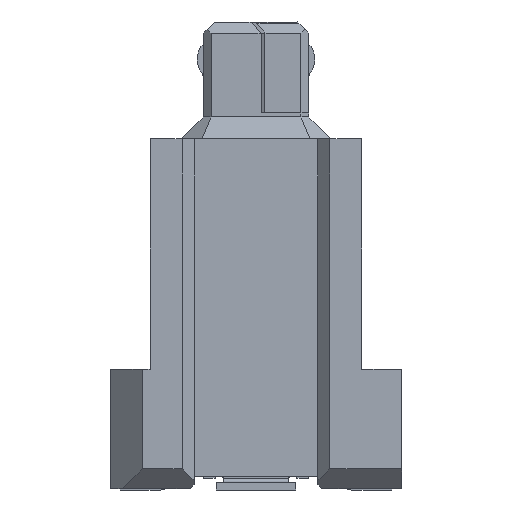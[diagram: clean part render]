
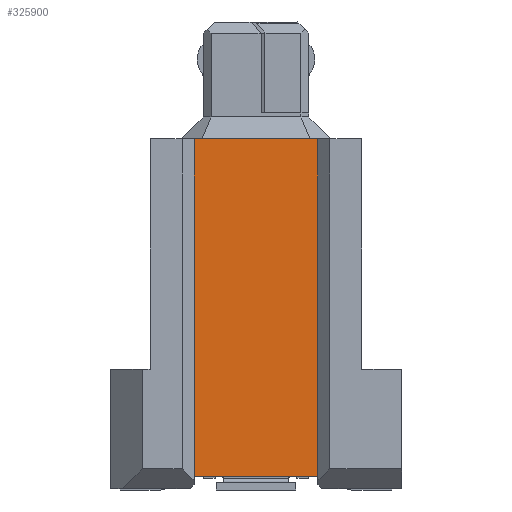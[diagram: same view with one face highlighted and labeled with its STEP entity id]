
A CAD part, left-side view. The second image highlights one B-rep face of the part: STEP entity #325900.
In plain terms, the highlighted planar face has unit normal (-1, 0, 0).
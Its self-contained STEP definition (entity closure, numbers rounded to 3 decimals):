
#173320=CARTESIAN_POINT('',(4.968,3.41,4.2));
#173330=VERTEX_POINT('',#173320);
#173360=CARTESIAN_POINT('',(4.968,3.41,0.));
#173370=DIRECTION('',(0.,0.,-1.));
#173380=VECTOR('',#173370,1.);
#173390=LINE('',#173360,#173380);
#173400=CARTESIAN_POINT('',(4.968,3.41,1.1));
#173410=VERTEX_POINT('',#173400);
#173420=EDGE_CURVE('',#173330,#173410,#173390,.T.);
#325600=CARTESIAN_POINT('',(4.968,-2.36,5.3));
#325610=DIRECTION('',(-1.,0.,0.));
#325620=DIRECTION('',(0.,1.,0.));
#325630=AXIS2_PLACEMENT_3D('',#325600,#325610,#325620);
#325640=PLANE('',#325630);
#325650=ORIENTED_EDGE('',*,*,#173420,.T.);
#325660=CARTESIAN_POINT('',(4.968,1.,4.2));
#325670=DIRECTION('',(0.,-1.,0.));
#325680=VECTOR('',#325670,1.);
#325690=LINE('',#325660,#325680);
#325700=CARTESIAN_POINT('',(4.968,-5.06,4.2));
#325710=VERTEX_POINT('',#325700);
#325720=EDGE_CURVE('',#173330,#325710,#325690,.T.);
#325730=ORIENTED_EDGE('',*,*,#325720,.F.);
#325740=CARTESIAN_POINT('',(4.968,-5.06,0.));
#325750=DIRECTION('',(0.,0.,-1.));
#325760=VECTOR('',#325750,1.);
#325770=LINE('',#325740,#325760);
#325780=CARTESIAN_POINT('',(4.968,-5.06,1.1));
#325790=VERTEX_POINT('',#325780);
#325800=EDGE_CURVE('',#325710,#325790,#325770,.T.);
#325810=ORIENTED_EDGE('',*,*,#325800,.F.);
#325820=CARTESIAN_POINT('',(4.968,-1.36,1.1));
#325830=DIRECTION('',(0.,1.,0.));
#325840=VECTOR('',#325830,1.);
#325850=LINE('',#325820,#325840);
#325860=EDGE_CURVE('',#325790,#173410,#325850,.T.);
#325870=ORIENTED_EDGE('',*,*,#325860,.F.);
#325880=EDGE_LOOP('',(#325870,#325810,#325730,#325650));
#325890=FACE_OUTER_BOUND('',#325880,.T.);
#325900=ADVANCED_FACE('',(#325890),#325640,.T.);
